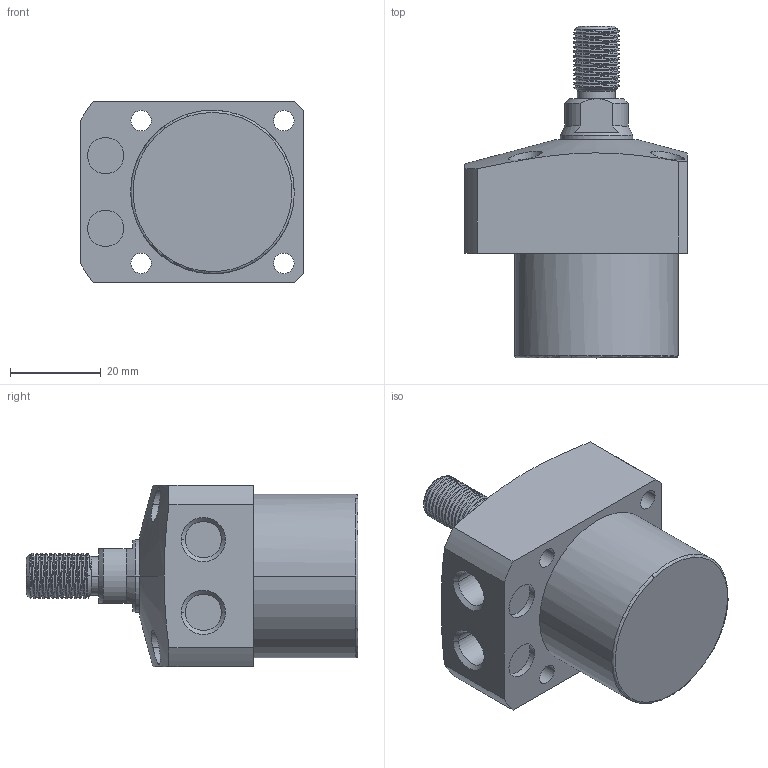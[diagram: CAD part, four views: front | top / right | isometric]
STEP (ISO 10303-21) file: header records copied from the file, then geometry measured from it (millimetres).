
FILE_DESCRIPTION((' '),'2;1');
FILE_NAME( 'TLL-036CT-(1-14).STEP.stp', '2025-10-24T16:39:41', (' '), ('--- Datakit www.datakit.com---'), ' Datakit CrossCadWare V2024.1 Dec 21 2023', 'Mastercam 2025', ' ');
FILE_SCHEMA(('AUTOMOTIVE_DESIGN { 1 0 10303 214 1 1 1 1 }'));
Length unit declared in the file: millimetre
Products named in the file (1): TLL-036CT-(1-14)
Bounding box: 49 x 73 x 40 mm (x, y, z)
Volume: 66310.6 mm3; surface area: 13260.6 mm2
Topology: 1 solids, 1 shells, 102 faces, 353 edges, 264 vertices
Faces by surface type: cylinder 61, plane 23, cone 14, torus 2, bspline 2
Entity records: 11696 total; most frequent: CARTESIAN_POINT 8720, ORIENTED_EDGE 706, DIRECTION 524, EDGE_CURVE 353, VERTEX_POINT 264, AXIS2_PLACEMENT_3D 218, B_SPLINE_CURVE_WITH_KNOTS 148, EDGE_LOOP 121
